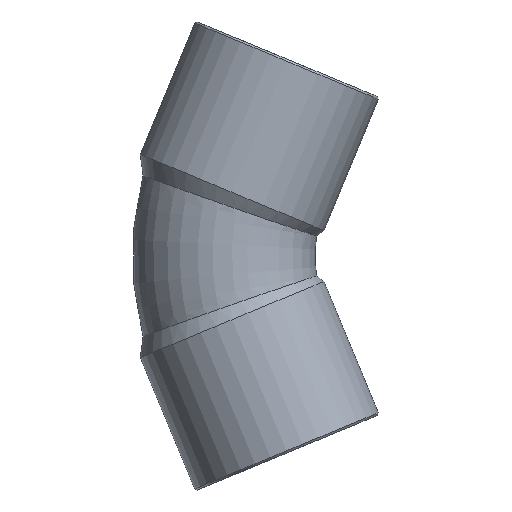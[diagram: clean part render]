
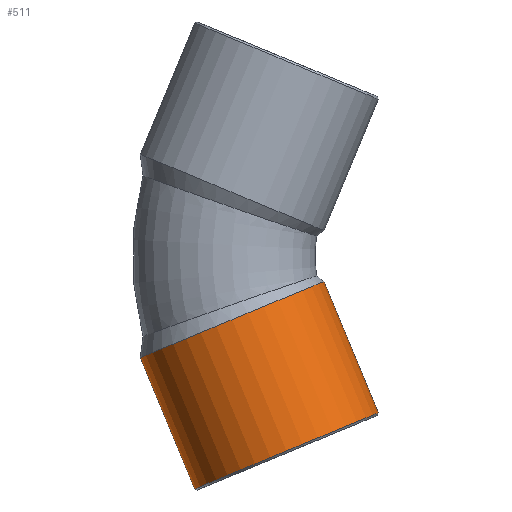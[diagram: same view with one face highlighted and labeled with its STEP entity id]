
A CAD part, front view. The second image highlights one B-rep face of the part: STEP entity #511.
In plain terms, the highlighted cylindrical face has radius 9.8 mm (diameter 19.6 mm), a partial arc.
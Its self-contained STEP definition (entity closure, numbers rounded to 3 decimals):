
#201=CARTESIAN_POINT('',(-25.402,0.,-10.019));
#202=VERTEX_POINT('',#201);
#209=CARTESIAN_POINT('',(-7.294,0.,-2.519));
#210=VERTEX_POINT('',#209);
#211=CARTESIAN_POINT('',(-16.348,0.,-6.269));
#212=DIRECTION('',(-0.383,0.,0.924));
#213=DIRECTION('',(0.924,0.,0.383));
#214=AXIS2_PLACEMENT_3D('',#211,#212,#213);
#215=CIRCLE('',#214,9.8);
#216=EDGE_CURVE('',#202,#210,#215,.T.);
#480=CARTESIAN_POINT('',(-16.266,0.,-6.467));
#481=DIRECTION('',(0.383,0.,-0.924));
#482=DIRECTION('',(0.924,0.,0.383));
#483=AXIS2_PLACEMENT_3D('',#480,#481,#482);
#484=CYLINDRICAL_SURFACE('',#483,9.8);
#485=CARTESIAN_POINT('',(-1.931,0.,-15.466));
#486=VERTEX_POINT('',#485);
#487=CARTESIAN_POINT('',(-7.294,0.,-2.519));
#488=DIRECTION('',(0.383,0.,-0.924));
#489=VECTOR('',#488,14.014);
#490=LINE('',#487,#489);
#491=EDGE_CURVE('',#210,#486,#490,.T.);
#492=ORIENTED_EDGE('',*,*,#491,.F.);
#493=ORIENTED_EDGE('',*,*,#216,.F.);
#494=CARTESIAN_POINT('',(-20.039,0.,-22.967));
#495=VERTEX_POINT('',#494);
#496=CARTESIAN_POINT('',(-20.039,0.,-22.967));
#497=DIRECTION('',(-0.383,0.,0.924));
#498=VECTOR('',#497,14.014);
#499=LINE('',#496,#498);
#500=EDGE_CURVE('',#495,#202,#499,.T.);
#501=ORIENTED_EDGE('',*,*,#500,.F.);
#502=CARTESIAN_POINT('',(-10.985,0.,-19.217));
#503=DIRECTION('',(0.383,0.,-0.924));
#504=DIRECTION('',(0.924,0.,0.383));
#505=AXIS2_PLACEMENT_3D('',#502,#503,#504);
#506=CIRCLE('',#505,9.8);
#507=EDGE_CURVE('',#486,#495,#506,.T.);
#508=ORIENTED_EDGE('',*,*,#507,.F.);
#509=EDGE_LOOP('',(#492,#493,#501,#508));
#510=FACE_OUTER_BOUND('',#509,.T.);
#511=ADVANCED_FACE('',(#510),#484,.T.);
